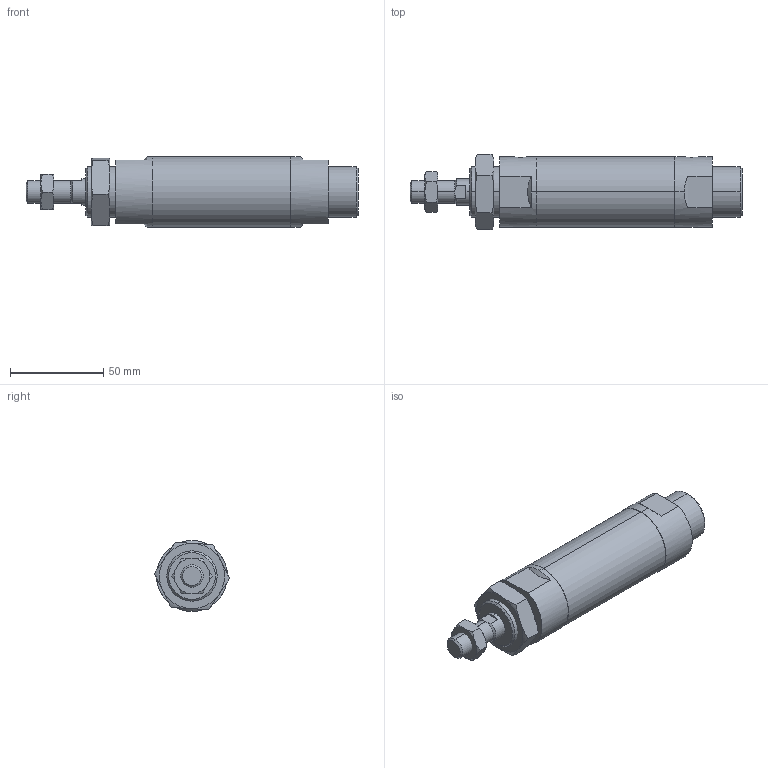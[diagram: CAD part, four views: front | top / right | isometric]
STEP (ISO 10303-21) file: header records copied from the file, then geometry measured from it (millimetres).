
FILE_DESCRIPTION (( 'STEP AP203' ), '1' );
FILE_NAME ('J#2-32-25-N.STEP', '2016-03-08T07:31:09', ( '' ), ( '' ), 'SwSTEP 2.0', 'SolidWorks 2014', '' );
FILE_SCHEMA (( 'CONFIG_CONTROL_DESIGN' ));
Length unit declared in the file: millimetre
Products named in the file (4): J#2-32-25; J#2-32-25-N
Assembly tree (3 placements, depth 2):
  J#2-32-25-N
    J#2-32-25
    (unnamed)
    (unnamed)
Bounding box: 178 x 40.33 x 38 mm (x, y, z)
Volume: 152660 mm3; surface area: 24975.3 mm2
Topology: 3 solids, 3 shells, 94 faces, 210 edges, 125 vertices
Faces by surface type: plane 33, torus 24, cylinder 22, cone 15
Entity records: 3451 total; most frequent: CARTESIAN_POINT 1038, DIRECTION 421, ORIENTED_EDGE 412, EDGE_CURVE 206, AXIS2_PLACEMENT_3D 178, VERTEX_POINT 125, EDGE_LOOP 105, ADVANCED_FACE 94
